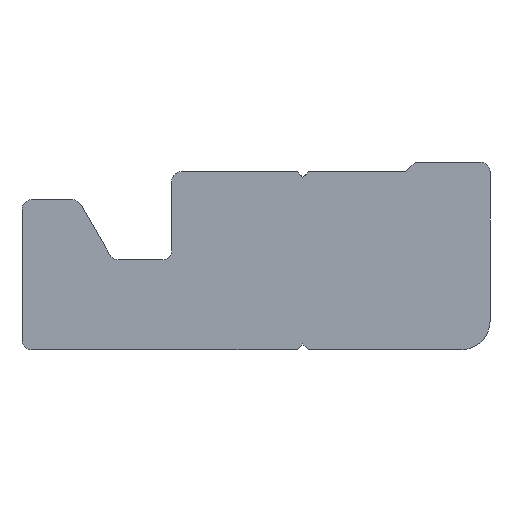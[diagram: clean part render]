
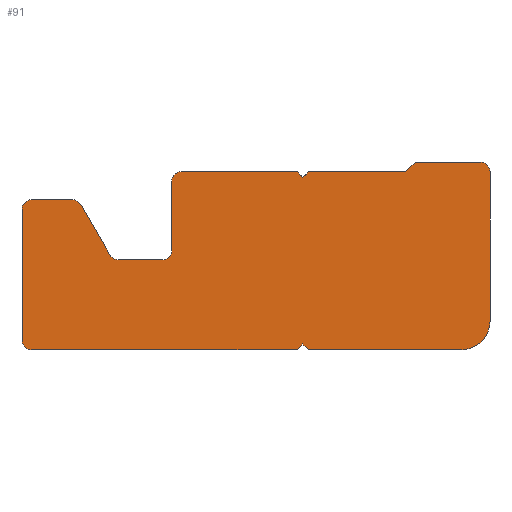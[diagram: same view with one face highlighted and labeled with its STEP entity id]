
A CAD part, front view. The second image highlights one B-rep face of the part: STEP entity #91.
In plain terms, the highlighted planar face has unit normal (0, -1, 0).
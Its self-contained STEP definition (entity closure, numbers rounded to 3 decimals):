
#91=ADVANCED_FACE('',(#189),#190,.F.);
#189=FACE_OUTER_BOUND('',#290,.T.);
#190=PLANE('',#291);
#290=EDGE_LOOP('',(#508,#509,#510,#511,#512,#513,#514,#515,#516,#517,#518,#519,#520,#521,#522,#523,#524,#525,#526,#527,#528,#529,#530,#531));
#291=AXIS2_PLACEMENT_3D('',#532,#533,#534);
#508=ORIENTED_EDGE('',*,*,#675,.F.);
#509=ORIENTED_EDGE('',*,*,#712,.F.);
#510=ORIENTED_EDGE('',*,*,#662,.F.);
#511=ORIENTED_EDGE('',*,*,#667,.F.);
#512=ORIENTED_EDGE('',*,*,#722,.F.);
#513=ORIENTED_EDGE('',*,*,#725,.F.);
#514=ORIENTED_EDGE('',*,*,#653,.F.);
#515=ORIENTED_EDGE('',*,*,#720,.F.);
#516=ORIENTED_EDGE('',*,*,#704,.F.);
#517=ORIENTED_EDGE('',*,*,#726,.F.);
#518=ORIENTED_EDGE('',*,*,#717,.F.);
#519=ORIENTED_EDGE('',*,*,#647,.F.);
#520=ORIENTED_EDGE('',*,*,#727,.F.);
#521=ORIENTED_EDGE('',*,*,#728,.F.);
#522=ORIENTED_EDGE('',*,*,#729,.F.);
#523=ORIENTED_EDGE('',*,*,#730,.F.);
#524=ORIENTED_EDGE('',*,*,#731,.F.);
#525=ORIENTED_EDGE('',*,*,#732,.F.);
#526=ORIENTED_EDGE('',*,*,#733,.F.);
#527=ORIENTED_EDGE('',*,*,#734,.F.);
#528=ORIENTED_EDGE('',*,*,#658,.F.);
#529=ORIENTED_EDGE('',*,*,#707,.F.);
#530=ORIENTED_EDGE('',*,*,#672,.F.);
#531=ORIENTED_EDGE('',*,*,#715,.F.);
#532=CARTESIAN_POINT('',(15.5,0.,-3.3));
#533=DIRECTION('',(-0.0,1.0,0.0));
#534=DIRECTION('',(1.0,0.0,0.0));
#647=EDGE_CURVE('',#780,#781,#782,.T.);
#653=EDGE_CURVE('',#789,#791,#792,.T.);
#658=EDGE_CURVE('',#797,#799,#800,.T.);
#662=EDGE_CURVE('',#805,#806,#807,.T.);
#667=EDGE_CURVE('',#814,#805,#815,.T.);
#672=EDGE_CURVE('',#820,#822,#823,.T.);
#675=EDGE_CURVE('',#826,#827,#828,.T.);
#704=EDGE_CURVE('',#873,#875,#876,.T.);
#707=EDGE_CURVE('',#822,#797,#879,.T.);
#712=EDGE_CURVE('',#806,#826,#884,.T.);
#715=EDGE_CURVE('',#827,#820,#887,.T.);
#717=EDGE_CURVE('',#781,#889,#890,.T.);
#720=EDGE_CURVE('',#875,#789,#893,.T.);
#722=EDGE_CURVE('',#895,#814,#896,.T.);
#725=EDGE_CURVE('',#791,#895,#899,.T.);
#726=EDGE_CURVE('',#889,#873,#900,.T.);
#727=EDGE_CURVE('',#901,#780,#902,.T.);
#728=EDGE_CURVE('',#903,#901,#904,.T.);
#729=EDGE_CURVE('',#905,#903,#906,.T.);
#730=EDGE_CURVE('',#907,#905,#908,.T.);
#731=EDGE_CURVE('',#909,#907,#910,.T.);
#732=EDGE_CURVE('',#911,#909,#912,.T.);
#733=EDGE_CURVE('',#913,#911,#914,.T.);
#734=EDGE_CURVE('',#799,#913,#915,.T.);
#780=VERTEX_POINT('',#961);
#781=VERTEX_POINT('',#962);
#782=CIRCLE('',#963,0.5);
#789=VERTEX_POINT('',#972);
#791=VERTEX_POINT('',#975);
#792=LINE('',#976,#977);
#797=VERTEX_POINT('',#984);
#799=VERTEX_POINT('',#987);
#800=LINE('',#988,#989);
#805=VERTEX_POINT('',#996);
#806=VERTEX_POINT('',#997);
#807=CIRCLE('',#998,0.5);
#814=VERTEX_POINT('',#1007);
#815=LINE('',#1008,#1009);
#820=VERTEX_POINT('',#1016);
#822=VERTEX_POINT('',#1019);
#823=LINE('',#1020,#1021);
#826=VERTEX_POINT('',#1025);
#827=VERTEX_POINT('',#1026);
#828=CIRCLE('',#1027,1.5);
#873=VERTEX_POINT('',#1090);
#875=VERTEX_POINT('',#1093);
#876=LINE('',#1094,#1095);
#879=LINE('',#1099,#1100);
#884=LINE('',#1107,#1108);
#887=LINE('',#1112,#1113);
#889=VERTEX_POINT('',#1115);
#890=LINE('',#1116,#1117);
#893=LINE('',#1121,#1122);
#895=VERTEX_POINT('',#1124);
#896=LINE('',#1125,#1126);
#899=LINE('',#1130,#1131);
#900=CIRCLE('',#1132,0.5);
#901=VERTEX_POINT('',#1133);
#902=LINE('',#1134,#1135);
#903=VERTEX_POINT('',#1136);
#904=CIRCLE('',#1137,0.5);
#905=VERTEX_POINT('',#1138);
#906=LINE('',#1139,#1140);
#907=VERTEX_POINT('',#1141);
#908=CIRCLE('',#1142,0.5);
#909=VERTEX_POINT('',#1143);
#910=LINE('',#1144,#1145);
#911=VERTEX_POINT('',#1146);
#912=CIRCLE('',#1147,0.5);
#913=VERTEX_POINT('',#1148);
#914=LINE('',#1149,#1150);
#915=CIRCLE('',#1151,0.5);
#961=CARTESIAN_POINT('',(-0.5,0.,0.));
#962=CARTESIAN_POINT('',(0.,0.,0.5));
#963=AXIS2_PLACEMENT_3D('',#1214,#1215,#1216);
#972=CARTESIAN_POINT('',(7.,0.,4.4));
#975=CARTESIAN_POINT('',(7.3,0.,4.7));
#976=CARTESIAN_POINT('',(7.,0.,4.4));
#977=VECTOR('',#1223,1.0);
#984=CARTESIAN_POINT('',(6.7,0.,-4.8));
#987=CARTESIAN_POINT('',(-7.5,0.,-4.8));
#988=CARTESIAN_POINT('',(6.7,0.,-4.8));
#989=VECTOR('',#1227,1.0);
#996=CARTESIAN_POINT('',(16.5,0.,5.2));
#997=CARTESIAN_POINT('',(17.,0.,4.7));
#998=AXIS2_PLACEMENT_3D('',#1230,#1231,#1232);
#1007=CARTESIAN_POINT('',(13.,0.,5.2));
#1008=CARTESIAN_POINT('',(13.,0.,5.2));
#1009=VECTOR('',#1238,1.0);
#1016=CARTESIAN_POINT('',(7.3,0.,-4.8));
#1019=CARTESIAN_POINT('',(7.,0.,-4.5));
#1020=CARTESIAN_POINT('',(7.3,0.,-4.8));
#1021=VECTOR('',#1242,1.0);
#1025=CARTESIAN_POINT('',(17.,0.,-3.3));
#1026=CARTESIAN_POINT('',(15.5,0.,-4.8));
#1027=AXIS2_PLACEMENT_3D('',#1244,#1245,#1246);
#1090=CARTESIAN_POINT('',(0.5,0.,4.7));
#1093=CARTESIAN_POINT('',(6.7,0.,4.7));
#1094=CARTESIAN_POINT('',(0.5,0.,4.7));
#1095=VECTOR('',#1284,1.0);
#1099=CARTESIAN_POINT('',(7.,0.,-4.5));
#1100=VECTOR('',#1286,1.0);
#1107=CARTESIAN_POINT('',(17.,0.,4.7));
#1108=VECTOR('',#1289,1.0);
#1112=CARTESIAN_POINT('',(15.5,0.,-4.8));
#1113=VECTOR('',#1291,1.0);
#1115=CARTESIAN_POINT('',(0.,0.,4.2));
#1116=CARTESIAN_POINT('',(0.,0.,0.5));
#1117=VECTOR('',#1292,1.0);
#1121=CARTESIAN_POINT('',(6.7,0.,4.7));
#1122=VECTOR('',#1294,1.0);
#1124=CARTESIAN_POINT('',(12.5,0.,4.7));
#1125=CARTESIAN_POINT('',(12.5,0.,4.7));
#1126=VECTOR('',#1295,1.0);
#1130=CARTESIAN_POINT('',(7.3,0.,4.7));
#1131=VECTOR('',#1297,1.0);
#1132=AXIS2_PLACEMENT_3D('',#1298,#1299,#1300);
#1133=CARTESIAN_POINT('',(-2.864,0.,0.));
#1134=CARTESIAN_POINT('',(-2.864,0.,0.));
#1135=VECTOR('',#1301,1.0);
#1136=CARTESIAN_POINT('',(-3.297,0.,0.25));
#1137=AXIS2_PLACEMENT_3D('',#1302,#1303,#1304);
#1138=CARTESIAN_POINT('',(-4.856,0.,2.95));
#1139=CARTESIAN_POINT('',(-4.856,0.,2.95));
#1140=VECTOR('',#1305,1.0);
#1141=CARTESIAN_POINT('',(-5.289,0.,3.2));
#1142=AXIS2_PLACEMENT_3D('',#1306,#1307,#1308);
#1143=CARTESIAN_POINT('',(-7.5,0.,3.2));
#1144=CARTESIAN_POINT('',(-7.5,0.,3.2));
#1145=VECTOR('',#1309,1.0);
#1146=CARTESIAN_POINT('',(-8.,0.,2.7));
#1147=AXIS2_PLACEMENT_3D('',#1310,#1311,#1312);
#1148=CARTESIAN_POINT('',(-8.,0.,-4.3));
#1149=CARTESIAN_POINT('',(-8.,0.,-4.3));
#1150=VECTOR('',#1313,1.0);
#1151=AXIS2_PLACEMENT_3D('',#1314,#1315,#1316);
#1214=CARTESIAN_POINT('',(-0.5,0.,0.5));
#1215=DIRECTION('',(0.0,-1.0,0.0));
#1216=DIRECTION('',(-1.0,0.0,0.0));
#1223=DIRECTION('',(0.707,0.0,0.707));
#1227=DIRECTION('',(-1.0,0.0,0.0));
#1230=CARTESIAN_POINT('',(16.5,0.,4.7));
#1231=DIRECTION('',(-0.0,1.0,0.0));
#1232=DIRECTION('',(1.0,0.0,0.0));
#1238=DIRECTION('',(1.0,0.0,0.0));
#1242=DIRECTION('',(-0.707,0.0,0.707));
#1244=CARTESIAN_POINT('',(15.5,0.,-3.3));
#1245=DIRECTION('',(-0.0,1.0,0.0));
#1246=DIRECTION('',(1.0,0.0,0.0));
#1284=DIRECTION('',(1.0,0.0,0.0));
#1286=DIRECTION('',(-0.707,0.0,-0.707));
#1289=DIRECTION('',(0.0,0.0,-1.0));
#1291=DIRECTION('',(-1.0,0.0,0.0));
#1292=DIRECTION('',(0.0,0.0,1.0));
#1294=DIRECTION('',(0.707,0.0,-0.707));
#1295=DIRECTION('',(0.707,0.0,0.707));
#1297=DIRECTION('',(1.0,0.0,0.0));
#1298=CARTESIAN_POINT('',(0.5,0.,4.2));
#1299=DIRECTION('',(-0.0,1.0,0.0));
#1300=DIRECTION('',(1.0,0.0,0.0));
#1301=DIRECTION('',(1.0,0.0,0.0));
#1302=CARTESIAN_POINT('',(-2.864,0.,0.5));
#1303=DIRECTION('',(0.0,-1.0,0.0));
#1304=DIRECTION('',(-1.0,0.0,0.0));
#1305=DIRECTION('',(0.5,0.0,-0.866));
#1306=CARTESIAN_POINT('',(-5.289,0.,2.7));
#1307=DIRECTION('',(-0.0,1.0,0.0));
#1308=DIRECTION('',(1.0,0.0,0.0));
#1309=DIRECTION('',(1.0,0.0,0.0));
#1310=CARTESIAN_POINT('',(-7.5,0.,2.7));
#1311=DIRECTION('',(-0.0,1.0,0.0));
#1312=DIRECTION('',(1.0,0.0,0.0));
#1313=DIRECTION('',(0.0,0.0,1.0));
#1314=CARTESIAN_POINT('',(-7.5,0.,-4.3));
#1315=DIRECTION('',(-0.0,1.0,0.0));
#1316=DIRECTION('',(1.0,0.0,0.0));
